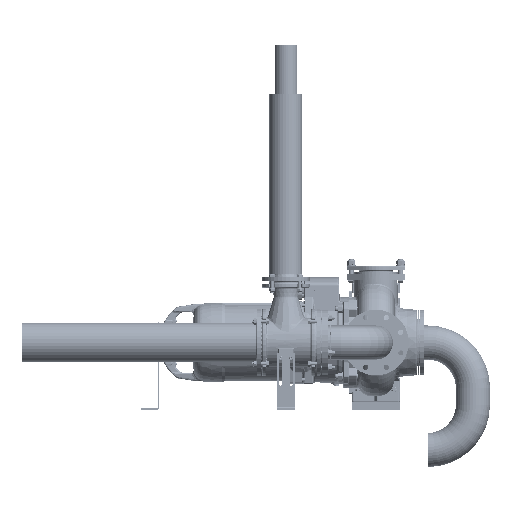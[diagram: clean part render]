
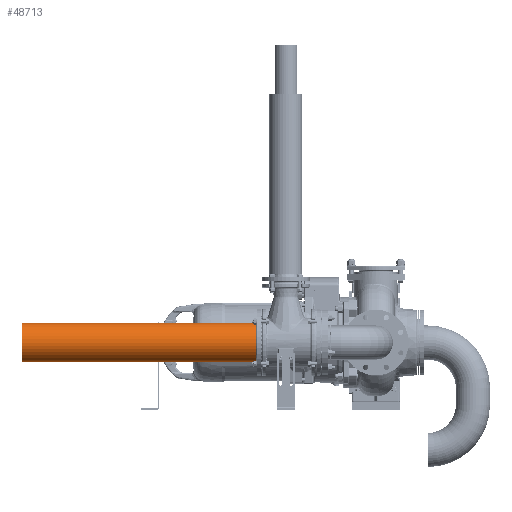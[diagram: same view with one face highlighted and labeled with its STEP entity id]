
A CAD part, left-side view. The second image highlights one B-rep face of the part: STEP entity #48713.
In plain terms, the highlighted cylindrical face has radius 66.5 mm (diameter 133 mm), a full revolution.
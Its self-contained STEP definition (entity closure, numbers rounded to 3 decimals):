
#5133=FACE_OUTER_BOUND('',#8239,.T.);
#8239=EDGE_LOOP('',(#31735,#31736,#31737,#31738,#31739));
#11679=LINE('',#73446,#14035);
#14035=VECTOR('',#58995,66.5);
#16418=CIRCLE('',#52794,66.5);
#16419=CIRCLE('',#52795,66.5);
#16420=CIRCLE('',#52797,66.5);
#19747=VERTEX_POINT('',#73438);
#19748=VERTEX_POINT('',#73440);
#19749=VERTEX_POINT('',#73444);
#24311=EDGE_CURVE('',#19747,#19748,#16418,.T.);
#24312=EDGE_CURVE('',#19748,#19747,#16419,.T.);
#24313=EDGE_CURVE('',#19749,#19749,#16420,.T.);
#24314=EDGE_CURVE('',#19749,#19748,#11679,.T.);
#31735=ORIENTED_EDGE('',*,*,#24313,.T.);
#31736=ORIENTED_EDGE('',*,*,#24314,.T.);
#31737=ORIENTED_EDGE('',*,*,#24311,.F.);
#31738=ORIENTED_EDGE('',*,*,#24312,.F.);
#31739=ORIENTED_EDGE('',*,*,#24314,.F.);
#46272=CYLINDRICAL_SURFACE('',#52796,66.5);
#48713=ADVANCED_FACE('',(#5133),#46272,.T.);
#52794=AXIS2_PLACEMENT_3D('',#73441,#58987,#58988);
#52795=AXIS2_PLACEMENT_3D('',#73442,#58989,#58990);
#52796=AXIS2_PLACEMENT_3D('',#73443,#58991,#58992);
#52797=AXIS2_PLACEMENT_3D('',#73445,#58993,#58994);
#58987=DIRECTION('center_axis',(0.,0.,-1.));
#58988=DIRECTION('ref_axis',(-1.,0.,0.));
#58989=DIRECTION('center_axis',(0.,0.,-1.));
#58990=DIRECTION('ref_axis',(-1.,0.,0.));
#58991=DIRECTION('center_axis',(0.,0.,1.));
#58992=DIRECTION('ref_axis',(1.,0.,0.));
#58993=DIRECTION('center_axis',(0.,0.,-1.));
#58994=DIRECTION('ref_axis',(1.,0.,0.));
#58995=DIRECTION('',(0.,0.,-1.));
#73438=CARTESIAN_POINT('',(66.5,0.,15.));
#73440=CARTESIAN_POINT('',(-66.5,0.,15.));
#73441=CARTESIAN_POINT('Origin',(0.,0.,15.));
#73442=CARTESIAN_POINT('Origin',(0.,0.,15.));
#73443=CARTESIAN_POINT('Origin',(0.,0.,0.));
#73444=CARTESIAN_POINT('',(-66.5,0.,800.));
#73445=CARTESIAN_POINT('Origin',(0.,0.,800.));
#73446=CARTESIAN_POINT('',(-66.5,0.,0.));
